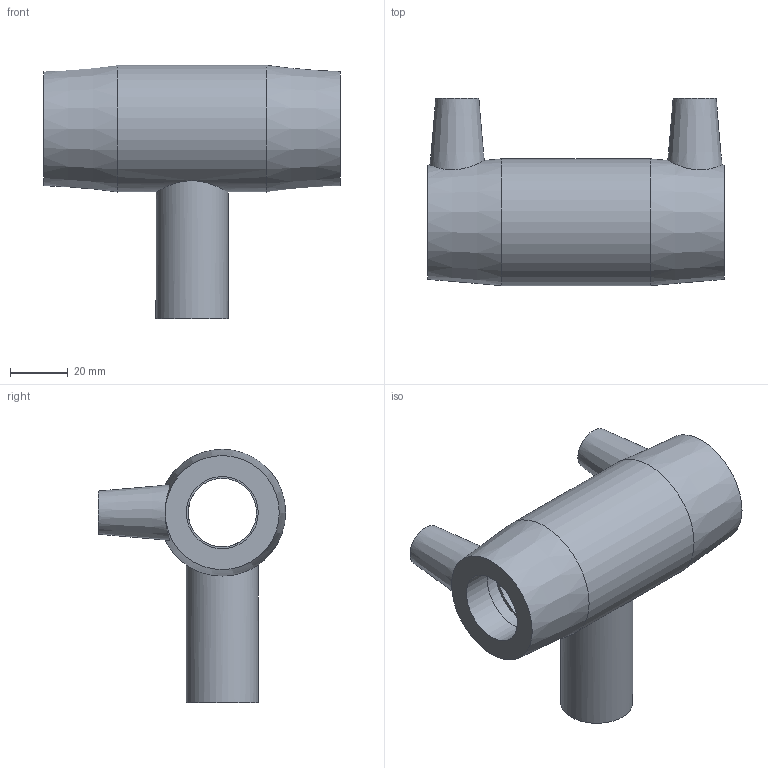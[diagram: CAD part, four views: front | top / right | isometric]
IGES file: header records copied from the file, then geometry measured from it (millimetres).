
Global section: file name: 490404025.ipt; native system: Autodesk Inventor 2015; preprocessor: unknown; author: KIM; date: 20190124.130115; units: millimetre
Bounding box: 103 x 65 x 88 mm (x, y, z)
Volume: 113598.4 mm3; surface area: 32927 mm2
Topology: 1 solids, 1 shells, 31 faces, 72 edges, 52 vertices
Faces by surface type: plane 13, revolution 10, cylinder 4, cone 4
Full cylindrical faces by diameter (mm): 4.8 x2, 25 x1, 44 x1
